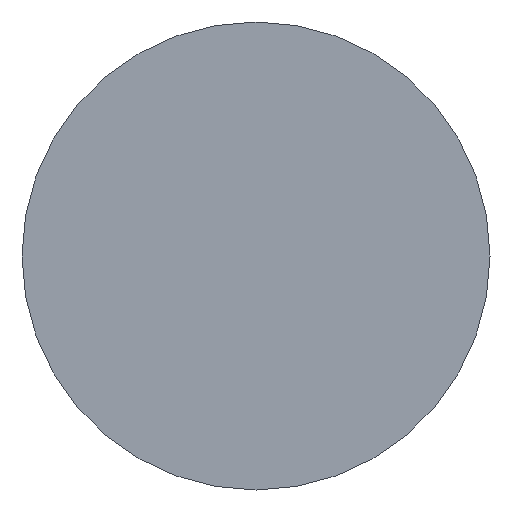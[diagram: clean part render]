
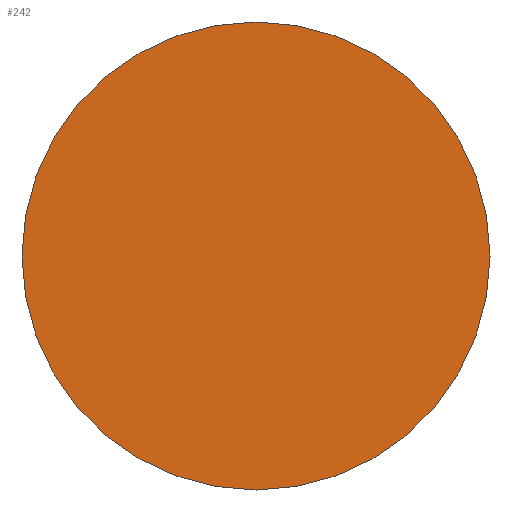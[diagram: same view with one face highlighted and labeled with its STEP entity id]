
A CAD part, front view. The second image highlights one B-rep face of the part: STEP entity #242.
In plain terms, the highlighted planar face has unit normal (0, -1, 0).
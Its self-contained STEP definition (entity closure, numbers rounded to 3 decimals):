
#9 = CARTESIAN_POINT ( 'NONE',  ( 8., 0., 0. ) ) ;
#11 = FACE_OUTER_BOUND ( 'NONE', #223, .T. ) ;
#12 = AXIS2_PLACEMENT_3D ( 'NONE', #173, #410, #100 ) ;
#22 = CARTESIAN_POINT ( 'NONE',  ( 0., 0., 8. ) ) ;
#86 = CARTESIAN_POINT ( 'NONE',  ( 0., 0., 0. ) ) ;
#91 = DIRECTION ( 'NONE',  ( 0., 0., -1. ) ) ;
#100 = DIRECTION ( 'NONE',  ( 0., 0., -1. ) ) ;
#123 = DIRECTION ( 'NONE',  ( 0., 0., -1. ) ) ;
#132 = CIRCLE ( 'NONE', #12, 8. ) ;
#148 = EDGE_CURVE ( 'NONE', #260, #465, #372, .T. ) ;
#173 = CARTESIAN_POINT ( 'NONE',  ( 0., 0., 0. ) ) ;
#193 = DIRECTION ( 'NONE',  ( 0., -1., 0. ) ) ;
#223 = EDGE_LOOP ( 'NONE', ( #333, #481 ) ) ;
#233 = CARTESIAN_POINT ( 'NONE',  ( 0., 0., -8. ) ) ;
#242 = ADVANCED_FACE ( 'NONE', ( #11 ), #388, .T. ) ;
#260 = VERTEX_POINT ( 'NONE', #233 ) ;
#269 = DIRECTION ( 'NONE',  ( 0., -1., 0. ) ) ;
#333 = ORIENTED_EDGE ( 'NONE', *, *, #148, .T. ) ;
#367 = AXIS2_PLACEMENT_3D ( 'NONE', #86, #193, #123 ) ;
#372 = CIRCLE ( 'NONE', #367, 8. ) ;
#388 = PLANE ( 'NONE',  #456 ) ;
#410 = DIRECTION ( 'NONE',  ( 0., -1., 0. ) ) ;
#456 = AXIS2_PLACEMENT_3D ( 'NONE', #9, #269, #91 ) ;
#465 = VERTEX_POINT ( 'NONE', #22 ) ;
#476 = EDGE_CURVE ( 'NONE', #465, #260, #132, .T. ) ;
#481 = ORIENTED_EDGE ( 'NONE', *, *, #476, .T. ) ;
